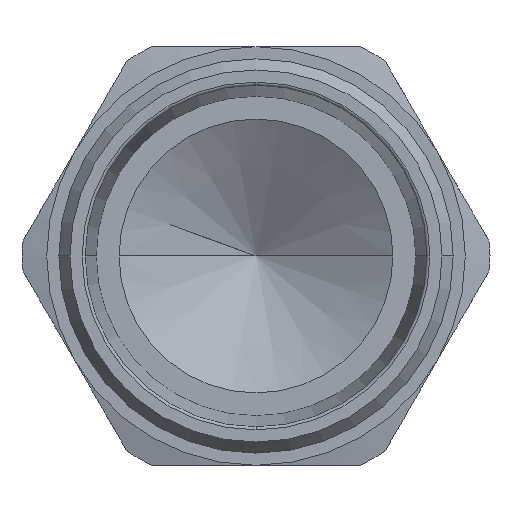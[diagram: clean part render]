
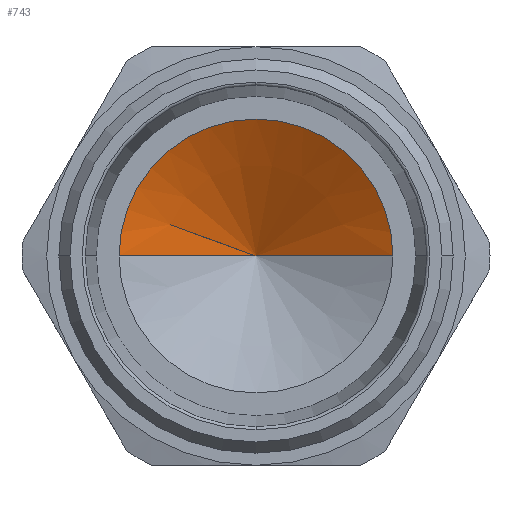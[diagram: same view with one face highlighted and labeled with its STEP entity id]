
A CAD part, left-side view. The second image highlights one B-rep face of the part: STEP entity #743.
In plain terms, the highlighted conical face has half-angle 60 degrees and reference radius 9 mm.
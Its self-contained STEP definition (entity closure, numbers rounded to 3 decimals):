
#711=CARTESIAN_POINT('',(0.,0.0,4.554));
#712=DIRECTION('',(0.,0.,1.0));
#713=DIRECTION('',(0.0,-1.0,0.0));
#714=AXIS2_PLACEMENT_3D('',#711,#712,#713);
#715=CONICAL_SURFACE('',#714,9.0,60.);
#716=CARTESIAN_POINT('',(0.,18.0,9.75));
#717=VERTEX_POINT('',#716);
#718=CARTESIAN_POINT('',(0.,0.0,-0.642));
#719=VERTEX_POINT('',#718);
#720=CARTESIAN_POINT('',(0.,18.0,9.75));
#721=DIRECTION('',(0.,-0.866,-0.5));
#722=VECTOR('',#721,20.785);
#723=LINE('',#720,#722);
#724=EDGE_CURVE('',#717,#719,#723,.T.);
#725=ORIENTED_EDGE('',*,*,#724,.T.);
#726=CARTESIAN_POINT('',(0.,-18.0,9.75));
#727=VERTEX_POINT('',#726);
#728=CARTESIAN_POINT('',(0.,0.0,-0.642));
#729=DIRECTION('',(0.,-0.866,0.5));
#730=VECTOR('',#729,20.785);
#731=LINE('',#728,#730);
#732=EDGE_CURVE('',#719,#727,#731,.T.);
#733=ORIENTED_EDGE('',*,*,#732,.T.);
#734=CARTESIAN_POINT('',(0.,0.0,9.75));
#735=DIRECTION('',(0.0,0.0,-1.0));
#736=DIRECTION('',(0.0,-1.0,0.0));
#737=AXIS2_PLACEMENT_3D('',#734,#735,#736);
#738=CIRCLE('',#737,18.0);
#739=EDGE_CURVE('',#717,#727,#738,.T.);
#740=ORIENTED_EDGE('',*,*,#739,.F.);
#741=EDGE_LOOP('',(#725,#733,#740));
#742=FACE_OUTER_BOUND('',#741,.T.);
#743=ADVANCED_FACE('',(#742),#715,.F.);
